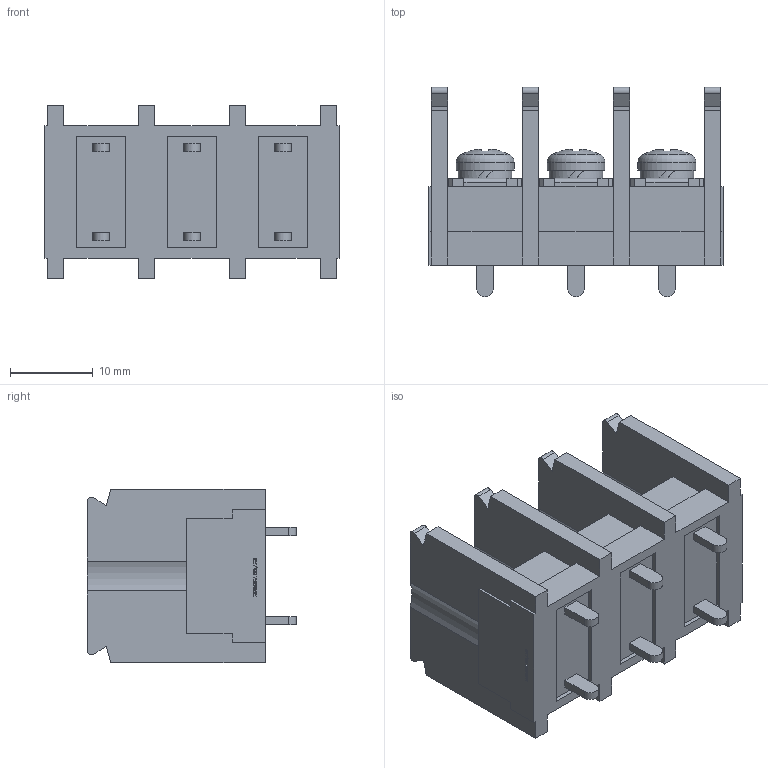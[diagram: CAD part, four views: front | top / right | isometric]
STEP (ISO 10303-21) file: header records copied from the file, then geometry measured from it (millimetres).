
FILE_DESCRIPTION(/* description */ ('Alibre Inc.'),/* implementation_level */ '2;1');
FILE_NAME(/* name */ 'export0',/* time_stamp */ '2015-12-02T12:30:39+09:00',/* author */ (''),/* organization */ (''),/* preprocessor_version */ 'ST-DEVELOPER v14',/* originating_system */ 'Alibre',/* authorisation */ '');
FILE_SCHEMA (('CONFIG_CONTROL_DESIGN'));
Length unit declared in the file: centimetre
Products named in the file (1): ID_1
Bounding box: 35.6 x 25.3 x 21 mm (x, y, z)
Volume: 6744.5 mm3; surface area: 7261 mm2
Topology: 1 solids, 17 shells, 713 faces, 1908 edges, 1270 vertices
Faces by surface type: plane 548, bspline 104, cylinder 40, cone 15, sphere 3, torus 3
Full cylindrical faces by diameter (mm): 4 x3, 6.5 x3, 7 x3
Entity records: 21339 total; most frequent: CARTESIAN_POINT 4837, ORIENTED_EDGE 3792, DIRECTION 2425, EDGE_CURVE 1896, VECTOR 1471, LINE 1471, VERTEX_POINT 1270, EDGE_LOOP 780
